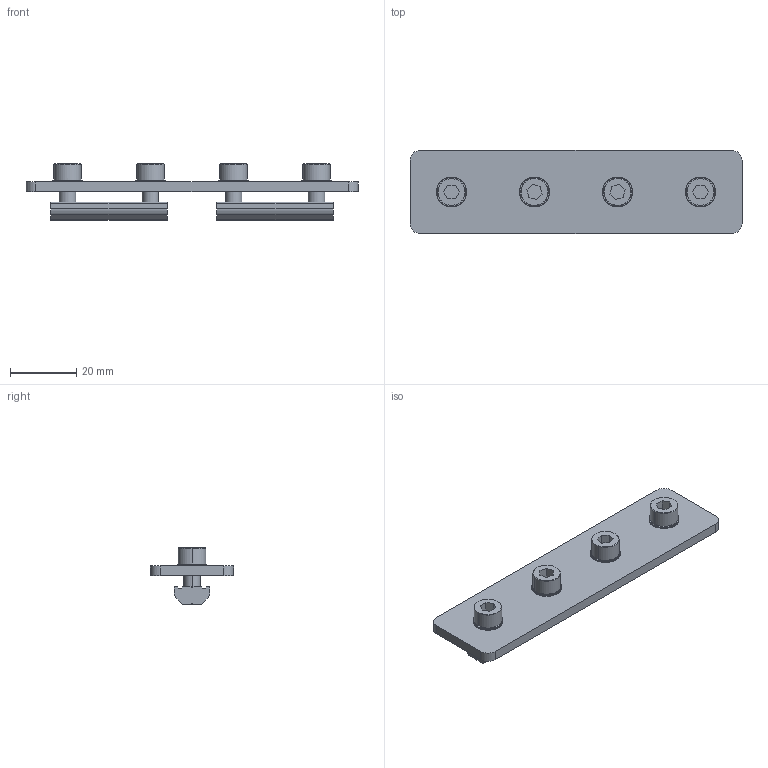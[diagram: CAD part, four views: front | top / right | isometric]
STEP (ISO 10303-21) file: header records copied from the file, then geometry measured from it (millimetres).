
FILE_DESCRIPTION (( 'STEP AP214' ), '1' );
FILE_NAME ('SFP-S25100.STEP', '2019-10-30T07:37:21', ( '微软用户' ), ( '微软中国' ), 'SwSTEP 2.0', 'SolidWorks 2016', '' );
FILE_SCHEMA (( 'AUTOMOTIVE_DESIGN' ));
Length unit declared in the file: millimetre
Products named in the file (5): PTN-M5P25; PTS-M5; PTC-M5L12; SFP-S25100
Assembly tree (11 placements, depth 2):
  SFP-S25100
    SFP-S25100
    PTC-M5L12  x4
    PTS-M5  x4
    PTN-M5P25  x2
Bounding box: 100 x 25 x 17 mm (x, y, z)
Volume: 12093.9 mm3; surface area: 10597.6 mm2
Topology: 11 solids, 11 shells, 854 faces, 2496 edges, 1656 vertices
Faces by surface type: plane 742, cylinder 88, cone 24
Entity records: 8810 total; most frequent: CARTESIAN_POINT 1686, DIRECTION 1480, ORIENTED_EDGE 1476, EDGE_CURVE 738, AXIS2_PLACEMENT_3D 508, VERTEX_POINT 490, VECTOR 464, LINE 464
